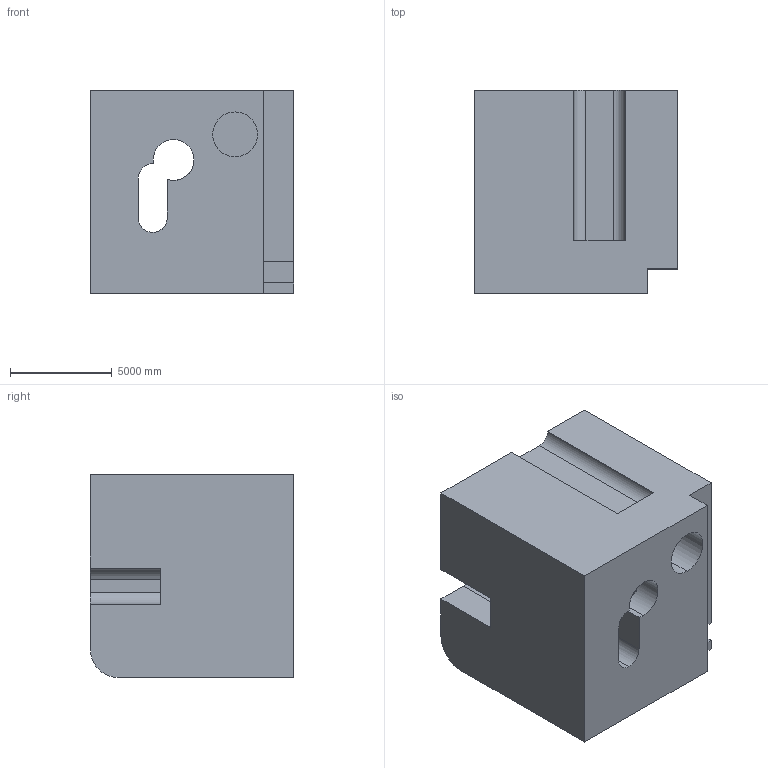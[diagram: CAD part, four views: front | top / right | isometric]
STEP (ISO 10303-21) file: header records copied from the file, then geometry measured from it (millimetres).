
FILE_DESCRIPTION (( 'STEP AP203' ), '1' );
FILE_NAME ('1822.STEP', '2022-08-26T10:41:42', ( 'user' ), ( '' ), 'SwSTEP 2.0', 'SolidWorks 2021', '' );
FILE_SCHEMA (( 'CONFIG_CONTROL_DESIGN' ));
Length unit declared in the file: centimetre
Products named in the file (1): 1822
Bounding box: 10000 x 10000 x 10000 mm (x, y, z)
Volume: 838544383726.5 mm3; surface area: 794614418.6 mm2
Topology: 1 solids, 1 shells, 44 faces, 129 edges, 86 vertices
Faces by surface type: plane 30, cylinder 14
Entity records: 1544 total; most frequent: CARTESIAN_POINT 287, ORIENTED_EDGE 258, DIRECTION 236, EDGE_CURVE 129, VECTOR 94, LINE 94, VERTEX_POINT 86, AXIS2_PLACEMENT_3D 71
